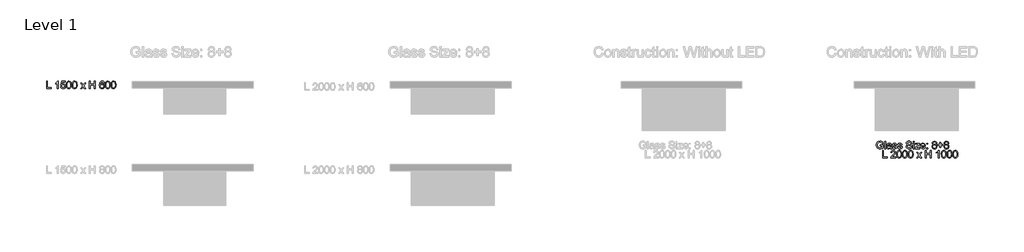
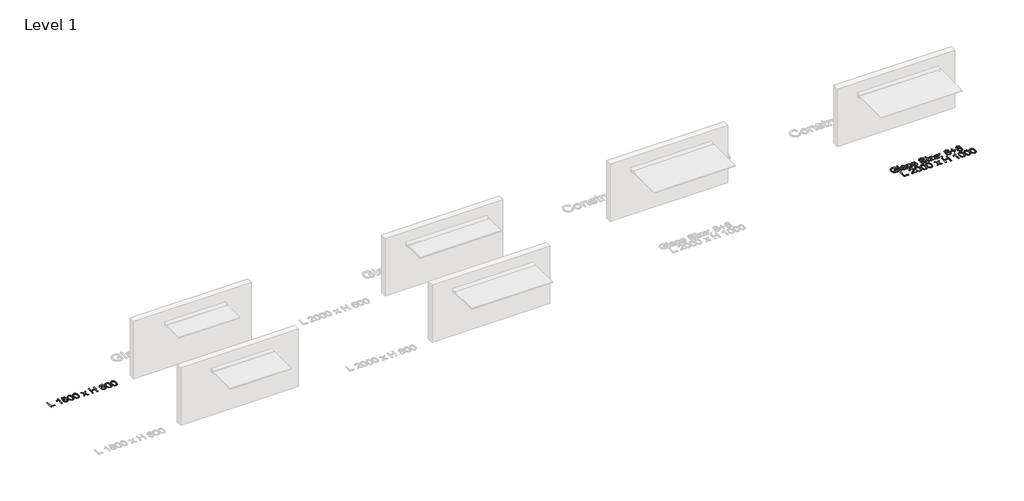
# One storey, part 3 of 6: 2 proxies.
"""IFC4 building model written with IfcOpenShell, lengths in millimetres."""

from ifc_helpers import new_model, si_unit, origin, origin_with_axes, place, context, project, spatial, polyline, outline, extrude, element, save

model = new_model("IFC4")

# Units and contexts
model_context = context("Model", 3, world=origin())
ifc_project = project(units=[si_unit("LENGTHUNIT", "METRE", prefix="MILLI")], contexts=[model_context])

# Site, building, storey
site = spatial("IfcSite", under=ifc_project)
building = spatial("IfcBuilding", under=site)
storey = spatial("IfcBuildingStorey", under=building, Name="Level 1", Elevation=0.0)

# Proxies
placement = place(None, origin())
element("IfcBuildingElementProxy", 1, Name="600mm Arial 3", ObjectType="600mm Arial 3", at=placement, inside=storey, context=model_context, shape_type="SweptSolid", body=[
    extrude(outline(polyline([(2272.1620309, 540.7311212), (2272.1620309, 721.5524795), (2294.7647007, 721.5524795), (2294.7647007, 563.333791), (2385.1753798, 563.333791), (2385.1753798, 540.7311212), (2272.1620309, 540.7311212)])), origin_with_axes(), (0.0, 0.0, 1.0), 5.0),
    extrude(outline(polyline([(2557.5207369, 540.7311212), (2534.9180672, 540.7311212), (2534.9180672, 681.6446406), (2513.507335, 666.3922531), (2489.7127276, 654.9805536), (2489.7127276, 676.3471399), (2522.8441801, 697.492997), (2542.9526099, 721.5524795), (2557.5207369, 721.5524795), (2557.5207369, 540.7311212)])), origin_with_axes(), (0.0, 0.0, 1.0), 5.0),
    extrude(outline(polyline([(2611.2020777, 588.7617945), (2633.8047475, 591.5871282), (2637.9544564, 578.0178008), (2645.194374, 568.3001979), (2655.4913911, 562.4563924), (2668.8123981, 560.5084573), (2685.0139212, 563.2179082), (2697.154027, 571.3462608), (2704.7360749, 583.9554162), (2707.2634243, 600.1072752), (2704.8961036, 615.3155169), (2697.7941417, 626.9479456), (2685.9023562, 634.3313372), (2669.1655648, 636.7924678), (2649.32201, 632.8634881), (2636.6300812, 622.6657992), (2614.0274114, 625.4911329), (2633.8047475, 718.7271457), (2721.3900929, 718.7271457), (2721.3900929, 696.124476), (2652.081125, 696.124476), (2642.3690403, 646.3279691), (2658.5153811, 656.1283454), (2675.434274, 659.3951376), (2696.5580582, 655.3447568), (2714.1060294, 643.1936145), (2725.9260779, 624.6744349), (2729.866094, 601.5199421), (2726.3233904, 578.9172723), (2715.6952796, 559.5813946), (2695.3440476, 543.3246893), (2668.7241064, 537.9057875), (2646.5242674, 541.3877906), (2628.8383405, 551.8337998), (2616.7147894, 568.0298047), (2611.2020777, 588.7617945)])), origin_with_axes(), (0.0, 0.0, 1.0), 5.0),
    extrude(outline(polyline([(2749.6434301, 629.6849876), (2751.3044173, 658.6281036), (2756.2873789, 681.7108594), (2764.5426509, 699.2864217), (2776.0205692, 711.7079573), (2790.8039071, 719.0913489), (2808.9754383, 721.5524795), (2835.3746503, 715.7252287), (2845.8041048, 708.6122303), (2853.6068819, 698.9277368), (2864.2018834, 672.1753581), (2868.3074465, 629.6849876), (2866.6630139, 600.9074186), (2861.7297164, 577.8798451), (2853.5241085, 560.2877281), (2842.0627449, 547.8165284), (2827.2462976, 540.3834727), (2808.9754383, 537.9057875), (2785.4898517, 542.2100068), (2767.6549326, 555.1226649), (2759.7749002, 568.7388972), (2754.1463057, 585.7046951), (2749.6434301, 629.6849876)]), holes=[polyline([(2772.2460999, 629.7291335), (2774.8948502, 594.175178), (2782.8411013, 573.5976986), (2794.6721863, 563.7807676), (2808.9754383, 560.5084573), (2823.2786903, 563.7918041), (2835.1097752, 573.6418445), (2843.0560263, 594.2303603), (2845.7047767, 629.7291335), (2843.144318, 664.4829456), (2835.4629419, 685.2204536), (2823.6539299, 695.5174707), (2808.7105632, 698.9498097), (2794.5618217, 695.9258197), (2783.1942681, 686.8538497), (2774.9831419, 664.8250758), (2772.2460999, 629.7291335)])]), origin_with_axes(), (0.0, 0.0, 1.0), 5.0),
    extrude(outline(polyline([(2888.0847825, 629.6849876), (2889.7457697, 658.6281036), (2894.7287314, 681.7108594), (2902.9840033, 699.2864217), (2914.4619216, 711.7079573), (2929.2452596, 719.0913489), (2947.4167907, 721.5524795), (2973.8160027, 715.7252287), (2984.2454572, 708.6122303), (2992.0482344, 698.9277368), (3002.6432358, 672.1753581), (3006.7487989, 629.6849876), (3005.1043664, 600.9074186), (3000.1710688, 577.8798451), (2991.9654609, 560.2877281), (2980.5040974, 547.8165284), (2965.68765, 540.3834727), (2947.4167907, 537.9057875), (2923.9312041, 542.2100068), (2906.096285, 555.1226649), (2898.2162527, 568.7388972), (2892.5876581, 585.7046951), (2888.0847825, 629.6849876)]), holes=[polyline([(2910.6874523, 629.7291335), (2913.3362027, 594.175178), (2921.2824538, 573.5976986), (2933.1135387, 563.7807676), (2947.4167907, 560.5084573), (2961.7200427, 563.7918041), (2973.5511276, 573.6418445), (2981.4973787, 594.2303603), (2984.1461291, 629.7291335), (2981.5856704, 664.4829456), (2973.9042944, 685.2204536), (2962.0952823, 695.5174707), (2947.1519157, 698.9498097), (2933.0031741, 695.9258197), (2921.6356205, 686.8538497), (2913.4244944, 664.8250758), (2910.6874523, 629.7291335)])]), origin_with_axes(), (0.0, 0.0, 1.0), 5.0),
    extrude(outline(polyline([(3088.6834769, 540.7311212), (3136.9790252, 607.5237762), (3091.5088106, 673.5218062), (3118.614356, 673.5218062), (3140.5548382, 641.692656), (3150.8408188, 626.7272164), (3159.7582783, 638.9997598), (3184.7448234, 673.5218062), (3211.9386605, 673.5218062), (3164.1728623, 607.4796304), (3210.1728269, 540.7311212), (3183.0231357, 540.7311212), (3155.2995485, 580.9038351), (3150.2669228, 588.2761903), (3115.8773139, 540.7311212), (3088.6834769, 540.7311212)])), origin_with_axes(), (0.0, 0.0, 1.0), 5.0),
    extrude(outline(polyline([(3303.4088398, 540.7311212), (3303.4088398, 721.5524795), (3326.0115096, 721.5524795), (3326.0115096, 648.0938027), (3422.0728562, 648.0938027), (3422.0728562, 721.5524795), (3444.6755259, 721.5524795), (3444.6755259, 540.7311212), (3422.0728562, 540.7311212), (3422.0728562, 625.4911329), (3326.0115096, 625.4911329), (3326.0115096, 540.7311212), (3303.4088398, 540.7311212)])), origin_with_axes(), (0.0, 0.0, 1.0), 5.0),
    extrude(outline(polyline([(3662.2262226, 673.5218062), (3639.6235528, 670.6964725), (3631.05926, 689.5467459), (3620.8063888, 696.5990437), (3608.4124444, 698.9498097), (3588.0170665, 693.4757256), (3579.5245107, 684.8286593), (3572.5880957, 672.9258373), (3567.9031185, 656.0897178), (3566.164876, 632.6427589), (3575.2313278, 643.2212056), (3586.0967225, 650.6763343), (3610.7963197, 656.5698038), (3631.6773017, 652.541496), (3649.2032, 640.4565725), (3661.0894672, 621.9925751), (3665.0515563, 598.8270459), (3663.1863946, 582.6420775), (3657.5909095, 567.6380103), (3648.7286322, 554.9129721), (3637.0630941, 545.5650906), (3623.1240453, 539.8206133), (3607.4412359, 537.9057875), (3581.7980214, 542.982559), (3561.3750525, 558.2128736), (3553.5819322, 570.0108492), (3548.0154178, 585.0976898), (3543.5622063, 625.1379662), (3548.5065403, 670.1556859), (3554.6869578, 687.3256583), (3563.3395423, 700.9363725), (3583.5914461, 716.3984527), (3609.8251112, 721.5524795), (3629.6576296, 718.3629426), (3645.5390953, 708.7943319), (3656.6638468, 693.5971267), (3662.2262226, 673.5218062)]), holes=[polyline([(3566.164876, 599.1802126), (3571.396158, 579.6015328), (3585.3020974, 565.3865725), (3605.6754023, 560.5084573), (3620.5911778, 563.0358066), (3632.3174164, 570.6178545), (3639.916019, 582.5372311), (3642.4488866, 598.0765666), (3639.9491284, 612.9923421), (3632.4498539, 624.365414), (3620.5249591, 631.566704), (3604.7483397, 633.9671341), (3589.8546371, 631.566704), (3577.3999922, 624.365414), (3568.9736551, 613.2682536), (3566.164876, 599.1802126)])]), origin_with_axes(), (0.0, 0.0, 1.0), 5.0),
    extrude(outline(polyline([(3684.8288924, 629.6849876), (3686.4898796, 658.6281036), (3691.4728412, 681.7108594), (3699.7281132, 699.2864217), (3711.2060315, 711.7079573), (3725.9893694, 719.0913489), (3744.1609006, 721.5524795), (3770.5601126, 715.7252287), (3780.9895671, 708.6122303), (3788.7923442, 698.9277368), (3799.3873457, 672.1753581), (3803.4929088, 629.6849876), (3801.8484762, 600.9074186), (3796.9151787, 577.8798451), (3788.7095708, 560.2877281), (3777.2482072, 547.8165284), (3762.4317599, 540.3834727), (3744.1609006, 537.9057875), (3720.675314, 542.2100068), (3702.8403949, 555.1226649), (3694.9603625, 568.7388972), (3689.331768, 585.7046951), (3684.8288924, 629.6849876)]), holes=[polyline([(3707.4315622, 629.7291335), (3710.0803125, 594.175178), (3718.0265636, 573.5976986), (3729.8576486, 563.7807676), (3744.1609006, 560.5084573), (3758.4641526, 563.7918041), (3770.2952375, 573.6418445), (3778.2414886, 594.2303603), (3780.890239, 629.7291335), (3778.3297803, 664.4829456), (3770.6484042, 685.2204536), (3758.8393922, 695.5174707), (3743.8960255, 698.9498097), (3729.747284, 695.9258197), (3718.3797304, 686.8538497), (3710.1686042, 664.8250758), (3707.4315622, 629.7291335)])]), origin_with_axes(), (0.0, 0.0, 1.0), 5.0),
    extrude(outline(polyline([(3823.2702448, 629.6849876), (3824.931232, 658.6281036), (3829.9141937, 681.7108594), (3838.1694656, 699.2864217), (3849.6473839, 711.7079573), (3864.4307219, 719.0913489), (3882.602253, 721.5524795), (3909.001465, 715.7252287), (3919.4309195, 708.6122303), (3927.2336967, 698.9277368), (3937.8286981, 672.1753581), (3941.9342612, 629.6849876), (3940.2898287, 600.9074186), (3935.3565311, 577.8798451), (3927.1509232, 560.2877281), (3915.6895597, 547.8165284), (3900.8731123, 540.3834727), (3882.602253, 537.9057875), (3859.1166664, 542.2100068), (3841.2817473, 555.1226649), (3833.401715, 568.7388972), (3827.7731204, 585.7046951), (3823.2702448, 629.6849876)]), holes=[polyline([(3845.8729146, 629.7291335), (3848.521665, 594.175178), (3856.4679161, 573.5976986), (3868.299001, 563.7807676), (3882.602253, 560.5084573), (3896.905505, 563.7918041), (3908.7365899, 573.6418445), (3916.682841, 594.2303603), (3919.3315914, 629.7291335), (3916.7711327, 664.4829456), (3909.0897567, 685.2204536), (3897.2807446, 695.5174707), (3882.337378, 698.9498097), (3868.1886364, 695.9258197), (3856.8210828, 686.8538497), (3848.6099567, 664.8250758), (3845.8729146, 629.7291335)])]), origin_with_axes(), (0.0, 0.0, 1.0), 5.0),
])
element("IfcBuildingElementProxy", 2, Name="600mm Arial 3", ObjectType="600mm Arial 3", at=placement, inside=storey, context=model_context, shape_type="SweptSolid", body=[
    extrude(outline(polyline([(22306.0715057, -837.1901227), (22306.0715057, -814.5874529), (22379.5301825, -814.5874529), (22379.5301825, -882.174733), (22361.6787087, -894.5907504), (22343.2643754, -903.4971735), (22324.3313285, -908.860893), (22304.9237139, -910.6487995), (22279.5674473, -907.8069111), (22256.6502384, -899.2812458), (22237.6123452, -885.3697882), (22223.8940256, -866.3705225), (22215.600126, -843.5802329), (22212.8354928, -818.2957034), (22215.5890896, -792.8290723), (22223.8498798, -769.1393112), (22237.2757332, -749.2681652), (22255.5245195, -735.2573794), (22277.7519497, -726.9469252), (22303.1137344, -724.1767737), (22321.7322422, -725.7825787), (22338.4745518, -730.5999934), (22352.5736293, -738.2813694), (22363.2624406, -748.4790584), (22371.1700641, -761.6841826), (22376.9255779, -778.3878646), (22356.0887417, -784.2592612), (22345.7806882, -763.3562062), (22328.1664983, -751.3043921), (22302.7605677, -746.7794435), (22273.82297, -751.6575588), (22254.1339256, -764.4598522), (22242.5014969, -781.8753859), (22237.2039962, -798.9377528), (22235.4381626, -817.3686408), (22237.5626811, -838.9835474), (22243.9362367, -856.7688025), (22254.3656913, -870.5974866), (22268.6579068, -880.3426807), (22285.3836617, -886.1202674), (22303.1137344, -888.0461297), (22334.037895, -882.2409518), (22356.9275127, -869.8580438), (22356.9275127, -837.1901227), (22306.0715057, -837.1901227)])), origin_with_axes(), (0.0, 0.0, 1.0), 5.0),
    extrude(outline(polyline([(22413.4341871, -907.8234657), (22413.4341871, -727.0021075), (22436.0368569, -727.0021075), (22436.0368569, -907.8234657), (22413.4341871, -907.8234657)])), origin_with_axes(), (0.0, 0.0, 1.0), 5.0),
    extrude(outline(polyline([(22554.7008733, -890.8714634), (22532.782464, -906.1900697), (22508.5684711, -910.6487995), (22489.6795701, -907.9669397), (22475.7460395, -899.9213605), (22467.1541555, -887.7039994), (22464.2901942, -872.5067942), (22468.6164864, -854.6277292), (22479.9840401, -841.6488524), (22495.8103235, -834.2323514), (22515.3669304, -830.8331218), (22554.5684358, -823.0634541), (22554.7008733, -818.0308284), (22553.1447325, -807.9435041), (22548.4763099, -801.3437011), (22538.0358189, -796.4435129), (22523.4897648, -794.8101168), (22500.62222, -799.158482), (22494.2100368, -805.1899073), (22489.7181977, -814.5874529), (22467.1155279, -811.7621192), (22476.8938313, -789.6891995), (22485.2263585, -782.261662), (22496.5828757, -776.7544685), (22526.4033902, -772.207447), (22553.7958836, -776.2247184), (22569.2690003, -786.3120427), (22576.1998971, -801.6527219), (22577.3035431, -821.430058), (22577.3035431, -849.5509577), (22578.4513349, -888.8186819), (22582.9542105, -907.8234657), (22560.3515407, -907.8234657), (22554.7008733, -890.8714634)]), holes=[polyline([(22554.7008733, -845.6661238), (22518.2364099, -852.5970206), (22498.7901677, -856.2611253), (22489.9830727, -862.2208136), (22486.8928639, -870.917544), (22488.5759241, -877.638748), (22493.6251045, -883.1459415), (22513.3803676, -888.0461297), (22536.2479124, -882.6382644), (22550.9926228, -869.549023), (22554.5684358, -852.0672706), (22554.7008733, -845.6661238)])]), origin_with_axes(), (0.0, 0.0, 1.0), 5.0),
    extrude(outline(polyline([(22599.9062129, -868.2687936), (22622.5088826, -865.4434599), (22626.0736592, -875.1113987), (22632.9714466, -882.2188789), (22643.2463907, -886.589317), (22656.9426374, -888.0461297), (22670.4733372, -886.710718), (22679.9867656, -882.7044831), (22685.6153601, -876.8993052), (22687.4915583, -870.1670647), (22685.6043236, -864.4060327), (22679.9426197, -860.0135216), (22656.6777624, -853.5682291), (22622.6413202, -842.5096963), (22607.7862452, -829.5970383), (22602.7315466, -811.3648066), (22606.7929638, -794.5231689), (22617.8735695, -781.6546567), (22632.2430402, -774.966562), (22651.6892825, -772.207447), (22679.1921405, -776.6441039), (22696.6738929, -788.6517722), (22704.4435606, -808.9367854), (22681.8408908, -811.7621192), (22678.987966, -804.6491208), (22673.3428167, -799.2909195), (22653.4551161, -794.8101168), (22631.8236548, -799.0922632), (22625.3342164, -809.069223), (22628.0271126, -815.646953), (22636.4589679, -820.6354329), (22655.9272831, -825.4473294), (22689.1028814, -836.0864767), (22704.5097794, -848.1382908), (22708.6981159, -857.0005681), (22710.0942281, -867.7831894), (22708.4553138, -878.9300138), (22703.5385709, -889.4146507), (22695.5316193, -898.4148837), (22684.6220787, -905.1084966), (22656.6336165, -910.6487995), (22633.8433269, -907.9779762), (22617.2113819, -899.9655063), (22606.1087033, -886.6996816), (22599.9062129, -868.2687936)])), origin_with_axes(), (0.0, 0.0, 1.0), 5.0),
    extrude(outline(polyline([(22727.0462304, -868.2687936), (22749.6489002, -865.4434599), (22753.2136767, -875.1113987), (22760.1114641, -882.2188789), (22770.3864082, -886.589317), (22784.0826549, -888.0461297), (22797.6133547, -886.710718), (22807.1267831, -882.7044831), (22812.7553776, -876.8993052), (22814.6315758, -870.1670647), (22812.7443412, -864.4060327), (22807.0826373, -860.0135216), (22783.8177799, -853.5682291), (22749.7813377, -842.5096963), (22734.9262627, -829.5970383), (22729.8715641, -811.3648066), (22733.9329813, -794.5231689), (22745.013587, -781.6546567), (22759.3830578, -774.966562), (22778.8293, -772.207447), (22806.332158, -776.6441039), (22823.8139104, -788.6517722), (22831.5835781, -808.9367854), (22808.9809084, -811.7621192), (22806.1279835, -804.6491208), (22800.4828343, -799.2909195), (22780.5951336, -794.8101168), (22758.9636723, -799.0922632), (22752.4742339, -809.069223), (22755.1671301, -815.646953), (22763.5989854, -820.6354329), (22783.0673006, -825.4473294), (22816.2428989, -836.0864767), (22831.6497969, -848.1382908), (22835.8381334, -857.0005681), (22837.2342456, -867.7831894), (22835.5953313, -878.9300138), (22830.6785884, -889.4146507), (22822.6716368, -898.4148837), (22811.7620962, -905.1084966), (22783.7736341, -910.6487995), (22760.9833445, -907.9779762), (22744.3513995, -899.9655063), (22733.2487208, -886.6996816), (22727.0462304, -868.2687936)])), origin_with_axes(), (0.0, 0.0, 1.0), 5.0),
    extrude(outline(polyline([(22927.6449247, -845.6661238), (22950.2475945, -845.6661238), (22957.531658, -868.2908665), (22964.8488309, -876.2922999), (22975.3224313, -882.5941185), (23002.4279767, -888.0461297), (23026.0460008, -883.9184937), (23041.2983883, -872.573013), (23046.3089411, -857.4089171), (23042.5565447, -843.3043214), (23027.1937926, -833.0404138), (22994.2830693, -824.4099022), (22958.8560332, -813.2630777), (22947.6043624, -805.6589569), (22939.6305201, -796.4435129), (22934.8793242, -785.815402), (22933.2955922, -773.9732806), (22935.2545638, -760.735047), (22941.1314787, -748.3907667), (22950.7718264, -737.9282027), (22964.0210964, -730.3351183), (22979.9246351, -725.7163599), (22997.5277885, -724.1767737), (23016.5987912, -725.7880969), (23033.2859185, -730.6220663), (23046.9932016, -738.5793539), (23057.1246717, -749.5606314), (23063.5368549, -762.8816385), (23066.0862772, -777.8581145), (23043.4836074, -777.8581145), (23039.3338985, -764.3715605), (23030.6813139, -754.6374029), (23017.1616506, -748.7439334), (22998.4107053, -746.7794435), (22979.2183016, -748.7218605), (22966.051805, -754.5491113), (22958.4366477, -763.1244406), (22955.898262, -773.311093), (22957.6972049, -781.9967869), (22963.0940338, -788.982866), (22975.8521814, -795.2295023), (22999.9999555, -801.6085761), (23039.9960861, -812.9540568), (23052.8811529, -821.1541465), (23061.8703495, -831.2745802), (23067.1512955, -843.2049933), (23068.9116109, -856.8350212), (23066.8864205, -870.7685518), (23060.8108493, -883.8743479), (23050.9332178, -895.1536098), (23037.5018461, -903.6075381), (23021.3499871, -908.8884841), (23003.3108935, -910.6487995), (22981.1662368, -908.7505284), (22962.9395233, -903.0557151), (22948.4210604, -893.5422867), (22937.4011552, -880.1881703), (22930.3267845, -863.9204284), (22927.6449247, -845.6661238)])), origin_with_axes(), (0.0, 0.0, 1.0), 5.0),
    extrude(outline(polyline([(23099.9902818, -749.6047773), (23099.9902818, -727.0021075), (23122.5929516, -727.0021075), (23122.5929516, -749.6047773), (23099.9902818, -749.6047773)])), origin_with_axes(), (0.0, 0.0, 1.0), 5.0),
    extrude(outline(polyline([(23099.9902818, -907.8234657), (23099.9902818, -775.0327808), (23122.5929516, -775.0327808), (23122.5929516, -907.8234657), (23099.9902818, -907.8234657)])), origin_with_axes(), (0.0, 0.0, 1.0), 5.0),
    extrude(outline(polyline([(23142.3702877, -907.8234657), (23142.3702877, -886.5451711), (23220.3759859, -797.6354505), (23197.2877119, -797.6354505), (23148.0209551, -797.6354505), (23148.0209551, -775.0327808), (23252.5583029, -775.0327808), (23252.5583029, -794.2362209), (23183.3817725, -873.124836), (23172.786771, -885.220796), (23198.921108, -885.220796), (23255.3836366, -885.220796), (23255.3836366, -907.8234657), (23142.3702877, -907.8234657)])), origin_with_axes(), (0.0, 0.0, 1.0), 5.0),
    extrude(outline(polyline([(23370.9574442, -868.2687936), (23393.1186556, -871.0941273), (23385.1337769, -887.7922911), (23372.392184, -900.2745272), (23355.1808248, -908.0552314), (23333.7866474, -910.6487995), (23307.2660344, -906.173515), (23286.8596201, -892.7476616), (23273.8476339, -871.2431196), (23269.5103052, -842.5317692), (23273.8917798, -812.8547287), (23287.0362035, -790.6604079), (23307.1667062, -776.8206873), (23332.5064181, -772.207447), (23357.057023, -776.8096508), (23376.6743304, -790.6162621), (23389.5373244, -812.766437), (23393.824989, -842.3993317), (23393.6925515, -848.4914576), (23292.112975, -848.4914576), (23296.0254, -865.4103505), (23305.1139247, -877.8484408), (23318.2307572, -885.4967075), (23334.2281058, -888.0461297), (23356.3893172, -883.3225249), (23364.6225162, -877.1972896), (23370.9574442, -868.2687936)]), holes=[polyline([(23292.112975, -825.8887878), (23371.2223192, -825.8887878), (23368.1652199, -813.9473382), (23362.1724222, -805.4051183), (23348.9948891, -797.4588672), (23332.4181264, -794.8101168), (23317.1822936, -796.9235989), (23304.5841746, -803.2640451), (23295.8267437, -813.1471949), (23292.112975, -825.8887878)])]), origin_with_axes(), (0.0, 0.0, 1.0), 5.0),
    extrude(outline(polyline([(23422.0783262, -797.6354505), (23422.0783262, -775.0327808), (23444.680996, -775.0327808), (23444.680996, -797.6354505), (23422.0783262, -797.6354505)])), origin_with_axes(), (0.0, 0.0, 1.0), 5.0),
    extrude(outline(polyline([(23422.0783262, -907.8234657), (23422.0783262, -885.220796), (23444.680996, -885.220796), (23444.680996, -907.8234657), (23422.0783262, -907.8234657)])), origin_with_axes(), (0.0, 0.0, 1.0), 5.0),
    extrude(outline(polyline([(23584.9764737, -808.230452), (23572.8749955, -802.2707637), (23564.3824396, -794.1920751), (23559.3663686, -784.1599331), (23557.6943449, -772.3398846), (23561.3363767, -754.6705123), (23572.262472, -740.0692759), (23589.2475837, -730.2688996), (23611.0666648, -727.0021075), (23633.0181835, -730.3461548), (23650.2240244, -740.3782968), (23661.3487759, -755.2112989), (23665.0570264, -772.9579263), (23663.4070757, -784.3972169), (23658.4572234, -794.2582938), (23650.1522874, -802.2873184), (23638.4370852, -808.230452), (23652.3485429, -815.3986327), (23662.4744948, -825.9550065), (23668.6493941, -839.3918964), (23670.7076939, -855.2016252), (23666.6242037, -876.8110135), (23654.3737333, -894.6680056), (23635.4572411, -906.653601), (23611.3756857, -910.6487995), (23587.2941303, -906.6370463), (23568.3776381, -894.6017868), (23556.1271676, -876.5737297), (23552.0436775, -854.5835834), (23554.1847507, -838.1613311), (23560.6079703, -824.6527043), (23570.9822426, -814.5212341), (23584.9764737, -808.230452)]), holes=[polyline([(23580.2970147, -773.0020721), (23582.3001322, -782.8686673), (23588.3094846, -790.7486996), (23598.1484885, -795.9137628), (23611.6405607, -797.6354505), (23624.8180938, -795.9247993), (23634.5081055, -790.7928454), (23640.4677939, -783.1776881), (23642.4543566, -774.0174265), (23640.4015751, -764.5095163), (23634.2432305, -756.6460386), (23624.4207812, -751.3650926), (23611.3756857, -749.6047773), (23598.2478167, -751.326465), (23588.4419221, -756.4915282), (23582.3332416, -764.0625397), (23580.2970147, -773.0020721)]), polyline([(23574.6463473, -853.7889583), (23578.4208166, -870.8071794), (23583.6465803, -878.1077976), (23591.774933, -883.5432541), (23611.552269, -888.0461297), (23626.9370941, -885.678809), (23638.4812311, -878.5768471), (23645.6990758, -867.821817), (23648.1050241, -854.4952917), (23645.6218206, -840.942519), (23638.1722102, -829.950205), (23626.3631982, -822.6661415), (23610.8017898, -820.2381203), (23595.6321757, -822.6330321), (23584.2039215, -829.8177675), (23577.0357408, -840.6003888), (23574.6463473, -853.7889583)])]), origin_with_axes(), (0.0, 0.0, 1.0), 5.0),
    extrude(outline(polyline([(23741.3410369, -879.5701285), (23741.3410369, -831.5394552), (23693.3103636, -831.5394552), (23693.3103636, -808.9367854), (23741.3410369, -808.9367854), (23741.3410369, -760.9061121), (23763.9437067, -760.9061121), (23763.9437067, -808.9367854), (23811.97438, -808.9367854), (23811.97438, -831.5394552), (23763.9437067, -831.5394552), (23763.9437067, -879.5701285), (23741.3410369, -879.5701285)])), origin_with_axes(), (0.0, 0.0, 1.0), 5.0),
    extrude(outline(polyline([(23870.3351797, -808.230452), (23858.2337015, -802.2707637), (23849.7411456, -794.1920751), (23844.7250746, -784.1599331), (23843.053051, -772.3398846), (23846.6950827, -754.6705123), (23857.621178, -740.0692759), (23874.6062897, -730.2688996), (23896.4253708, -727.0021075), (23918.3768895, -730.3461548), (23935.5827304, -740.3782968), (23946.7074819, -755.2112989), (23950.4157324, -772.9579263), (23948.7657817, -784.3972169), (23943.8159294, -794.2582938), (23935.5109934, -802.2873184), (23923.7957913, -808.230452), (23937.7072489, -815.3986327), (23947.8332008, -825.9550065), (23954.0081001, -839.3918964), (23956.0663999, -855.2016252), (23951.9829097, -876.8110135), (23939.7324393, -894.6680056), (23920.8159471, -906.653601), (23896.7343917, -910.6487995), (23872.6528363, -906.6370463), (23853.7363441, -894.6017868), (23841.4858737, -876.5737297), (23837.4023835, -854.5835834), (23839.5434567, -838.1613311), (23845.9666764, -824.6527043), (23856.3409486, -814.5212341), (23870.3351797, -808.230452)]), holes=[polyline([(23865.6557207, -773.0020721), (23867.6588382, -782.8686673), (23873.6681906, -790.7486996), (23883.5071946, -795.9137628), (23896.9992667, -797.6354505), (23910.1767998, -795.9247993), (23919.8668116, -790.7928454), (23925.8264999, -783.1776881), (23927.8130627, -774.0174265), (23925.7602811, -764.5095163), (23919.6019365, -756.6460386), (23909.7794873, -751.3650926), (23896.7343917, -749.6047773), (23883.6065227, -751.326465), (23873.8006281, -756.4915282), (23867.6919476, -764.0625397), (23865.6557207, -773.0020721)]), polyline([(23860.0050533, -853.7889583), (23863.7795226, -870.8071794), (23869.0052863, -878.1077976), (23877.133639, -883.5432541), (23896.9109751, -888.0461297), (23912.2958001, -885.678809), (23923.8399371, -878.5768471), (23931.0577819, -867.821817), (23933.4637301, -854.4952917), (23930.9805266, -840.942519), (23923.5309162, -829.950205), (23911.7219042, -822.6661415), (23896.1604958, -820.2381203), (23880.9908817, -822.6330321), (23869.5626275, -829.8177675), (23862.3944469, -840.6003888), (23860.0050533, -853.7889583)])]), origin_with_axes(), (0.0, 0.0, 1.0), 5.0),
    extrude(outline(polyline([(22362.5781801, -1127.3781379), (22362.5781801, -946.5567796), (22385.1808499, -946.5567796), (22385.1808499, -1104.7754681), (22475.5915291, -1104.7754681), (22475.5915291, -1127.3781379), (22362.5781801, -1127.3781379)])), origin_with_axes(), (0.0, 0.0, 1.0), 5.0),
    extrude(outline(polyline([(22679.0155571, -1104.7754681), (22679.0155571, -1127.3781379), (22560.3515407, -1127.3781379), (22562.7795619, -1111.7946565), (22576.5309909, -1087.8013928), (22604.8505469, -1061.6008371), (22643.853396, -1023.9444361), (22651.1540142, -1010.9655593), (22653.5875536, -998.3398492), (22651.2864517, -987.0219597), (22644.3831461, -977.6133776), (22633.7715899, -971.2729314), (22620.3457365, -969.1594494), (22606.2466591, -971.2232674), (22595.2929726, -977.4147213), (22588.2241201, -987.2482071), (22585.7795442, -1000.2381203), (22563.1768745, -997.4127866), (22568.6564768, -975.5495596), (22580.5041164, -959.5798022), (22598.1017517, -949.8125353), (22620.8313407, -946.5567796), (22643.7264767, -950.1767384), (22661.2910026, -961.0366149), (22672.4654182, -977.2602109), (22676.1902234, -996.9713282), (22672.172952, -1018.4041333), (22658.8188356, -1040.5653446), (22626.4378624, -1071.533651), (22600.4359629, -1093.2754769), (22590.238274, -1104.7754681), (22679.0155571, -1104.7754681)])), origin_with_axes(), (0.0, 0.0, 1.0), 5.0),
    extrude(outline(polyline([(22701.6182269, -1038.4242714), (22703.2792141, -1009.4811555), (22708.2621757, -986.3983997), (22716.5174477, -968.8228374), (22727.9953659, -956.4013018), (22742.7787039, -949.0179101), (22760.9502351, -946.5567796), (22787.349447, -952.3840304), (22797.7789016, -959.4970288), (22805.5816787, -969.1815223), (22816.1766802, -995.933901), (22820.2822433, -1038.4242714), (22818.6378107, -1067.2018405), (22813.7045132, -1090.229414), (22805.4989053, -1107.821531), (22794.0375417, -1120.2927306), (22779.2210944, -1127.7257863), (22760.9502351, -1130.2034716), (22737.4646485, -1125.8992522), (22719.6297294, -1112.9865942), (22711.749697, -1099.3703619), (22706.1211025, -1082.404564), (22701.6182269, -1038.4242714)]), holes=[polyline([(22724.2208967, -1038.3801256), (22726.869647, -1073.934081), (22734.8158981, -1094.5115604), (22746.6469831, -1104.3284915), (22760.9502351, -1107.6008018), (22775.253487, -1104.317455), (22787.084572, -1094.4674146), (22795.0308231, -1073.8788987), (22797.6795735, -1038.3801256), (22795.1191148, -1003.6263135), (22787.4377387, -982.8888054), (22775.6287267, -972.5917884), (22760.68536, -969.1594494), (22746.5366185, -972.1834394), (22735.1690649, -981.2554094), (22726.9579387, -1003.2841832), (22724.2208967, -1038.3801256)])]), origin_with_axes(), (0.0, 0.0, 1.0), 5.0),
    extrude(outline(polyline([(22840.0595793, -1038.4242714), (22841.7205665, -1009.4811555), (22846.7035281, -986.3983997), (22854.9588001, -968.8228374), (22866.4367184, -956.4013018), (22881.2200563, -949.0179101), (22899.3915875, -946.5567796), (22925.7907995, -952.3840304), (22936.220254, -959.4970288), (22944.0230312, -969.1815223), (22954.6180326, -995.933901), (22958.7235957, -1038.4242714), (22957.0791632, -1067.2018405), (22952.1458656, -1090.229414), (22943.9402577, -1107.821531), (22932.4788941, -1120.2927306), (22917.6624468, -1127.7257863), (22899.3915875, -1130.2034716), (22875.9060009, -1125.8992522), (22858.0710818, -1112.9865942), (22850.1910495, -1099.3703619), (22844.5624549, -1082.404564), (22840.0595793, -1038.4242714)]), holes=[polyline([(22862.6622491, -1038.3801256), (22865.3109995, -1073.934081), (22873.2572506, -1094.5115604), (22885.0883355, -1104.3284915), (22899.3915875, -1107.6008018), (22913.6948395, -1104.317455), (22925.5259244, -1094.4674146), (22933.4721755, -1073.8788987), (22936.1209259, -1038.3801256), (22933.5604672, -1003.6263135), (22925.8790912, -982.8888054), (22914.0700791, -972.5917884), (22899.1267125, -969.1594494), (22884.9779709, -972.1834394), (22873.6104173, -981.2554094), (22865.3992911, -1003.2841832), (22862.6622491, -1038.3801256)])]), origin_with_axes(), (0.0, 0.0, 1.0), 5.0),
    extrude(outline(polyline([(22978.5009317, -1038.4242714), (22980.1619189, -1009.4811555), (22985.1448806, -986.3983997), (22993.4001525, -968.8228374), (23004.8780708, -956.4013018), (23019.6614088, -949.0179101), (23037.8329399, -946.5567796), (23064.2321519, -952.3840304), (23074.6616065, -959.4970288), (23082.4643836, -969.1815223), (23093.059385, -995.933901), (23097.1649481, -1038.4242714), (23095.5205156, -1067.2018405), (23090.587218, -1090.229414), (23082.3816101, -1107.821531), (23070.9202466, -1120.2927306), (23056.1037992, -1127.7257863), (23037.8329399, -1130.2034716), (23014.3473534, -1125.8992522), (22996.5124342, -1112.9865942), (22988.6324019, -1099.3703619), (22983.0038074, -1082.404564), (22978.5009317, -1038.4242714)]), holes=[polyline([(23001.1036015, -1038.3801256), (23003.7523519, -1073.934081), (23011.698603, -1094.5115604), (23023.529688, -1104.3284915), (23037.8329399, -1107.6008018), (23052.1361919, -1104.317455), (23063.9672769, -1094.4674146), (23071.913528, -1073.8788987), (23074.5622783, -1038.3801256), (23072.0018196, -1003.6263135), (23064.3204436, -982.8888054), (23052.5114315, -972.5917884), (23037.5680649, -969.1594494), (23023.4193234, -972.1834394), (23012.0517697, -981.2554094), (23003.8406436, -1003.2841832), (23001.1036015, -1038.3801256)])]), origin_with_axes(), (0.0, 0.0, 1.0), 5.0),
    extrude(outline(polyline([(23179.0996261, -1127.3781379), (23227.3951744, -1060.5854828), (23181.9249598, -994.5874529), (23209.0305052, -994.5874529), (23230.9709874, -1026.4166031), (23241.256968, -1041.3820427), (23250.1744275, -1029.1094993), (23275.1609727, -994.5874529), (23302.3548097, -994.5874529), (23254.5890115, -1060.6296287), (23300.5889762, -1127.3781379), (23273.4392849, -1127.3781379), (23245.7156978, -1087.205424), (23240.6830721, -1079.8330688), (23206.2934632, -1127.3781379), (23179.0996261, -1127.3781379)])), origin_with_axes(), (0.0, 0.0, 1.0), 5.0),
    extrude(outline(polyline([(23393.824989, -1127.3781379), (23393.824989, -946.5567796), (23416.4276588, -946.5567796), (23416.4276588, -1020.0154564), (23512.4890054, -1020.0154564), (23512.4890054, -946.5567796), (23535.0916752, -946.5567796), (23535.0916752, -1127.3781379), (23512.4890054, -1127.3781379), (23512.4890054, -1042.6181262), (23416.4276588, -1042.6181262), (23416.4276588, -1127.3781379), (23393.824989, -1127.3781379)])), origin_with_axes(), (0.0, 0.0, 1.0), 5.0),
    extrude(outline(polyline([(23721.5637009, -1127.3781379), (23698.9610311, -1127.3781379), (23698.9610311, -986.4646184), (23677.550299, -1001.717006), (23653.7556915, -1013.1287054), (23653.7556915, -991.7621192), (23686.887144, -970.6162621), (23706.9955739, -946.5567796), (23721.5637009, -946.5567796), (23721.5637009, -1127.3781379)])), origin_with_axes(), (0.0, 0.0, 1.0), 5.0),
    extrude(outline(polyline([(23775.2450416, -1038.4242714), (23776.9060288, -1009.4811555), (23781.8889904, -986.3983997), (23790.1442624, -968.8228374), (23801.6221807, -956.4013018), (23816.4055186, -949.0179101), (23834.5770498, -946.5567796), (23860.9762618, -952.3840304), (23871.4057163, -959.4970288), (23879.2084935, -969.1815223), (23889.8034949, -995.933901), (23893.909058, -1038.4242714), (23892.2646255, -1067.2018405), (23887.3313279, -1090.229414), (23879.12572, -1107.821531), (23867.6643564, -1120.2927306), (23852.8479091, -1127.7257863), (23834.5770498, -1130.2034716), (23811.0914632, -1125.8992522), (23793.2565441, -1112.9865942), (23785.3765118, -1099.3703619), (23779.7479172, -1082.404564), (23775.2450416, -1038.4242714)]), holes=[polyline([(23797.8477114, -1038.3801256), (23800.4964618, -1073.934081), (23808.4427129, -1094.5115604), (23820.2737978, -1104.3284915), (23834.5770498, -1107.6008018), (23848.8803018, -1104.317455), (23860.7113867, -1094.4674146), (23868.6576378, -1073.8788987), (23871.3063882, -1038.3801256), (23868.7459295, -1003.6263135), (23861.0645534, -982.8888054), (23849.2555414, -972.5917884), (23834.3121748, -969.1594494), (23820.1634332, -972.1834394), (23808.7958796, -981.2554094), (23800.5847534, -1003.2841832), (23797.8477114, -1038.3801256)])]), origin_with_axes(), (0.0, 0.0, 1.0), 5.0),
    extrude(outline(polyline([(23913.686394, -1038.4242714), (23915.3473812, -1009.4811555), (23920.3303429, -986.3983997), (23928.5856148, -968.8228374), (23940.0635331, -956.4013018), (23954.8468711, -949.0179101), (23973.0184022, -946.5567796), (23999.4176142, -952.3840304), (24009.8470688, -959.4970288), (24017.6498459, -969.1815223), (24028.2448473, -995.933901), (24032.3504104, -1038.4242714), (24030.7059779, -1067.2018405), (24025.7726803, -1090.229414), (24017.5670724, -1107.821531), (24006.1057089, -1120.2927306), (23991.2892615, -1127.7257863), (23973.0184022, -1130.2034716), (23949.5328156, -1125.8992522), (23931.6978965, -1112.9865942), (23923.8178642, -1099.3703619), (23918.1892697, -1082.404564), (23913.686394, -1038.4242714)]), holes=[polyline([(23936.2890638, -1038.3801256), (23938.9378142, -1073.934081), (23946.8840653, -1094.5115604), (23958.7151502, -1104.3284915), (23973.0184022, -1107.6008018), (23987.3216542, -1104.317455), (23999.1527392, -1094.4674146), (24007.0989903, -1073.8788987), (24009.7477406, -1038.3801256), (24007.1872819, -1003.6263135), (23999.5059059, -982.8888054), (23987.6968938, -972.5917884), (23972.7535272, -969.1594494), (23958.6047857, -972.1834394), (23947.237232, -981.2554094), (23939.0261059, -1003.2841832), (23936.2890638, -1038.3801256)])]), origin_with_axes(), (0.0, 0.0, 1.0), 5.0),
    extrude(outline(polyline([(24052.1277465, -1038.4242714), (24053.7887337, -1009.4811555), (24058.7716953, -986.3983997), (24067.0269673, -968.8228374), (24078.5048855, -956.4013018), (24093.2882235, -949.0179101), (24111.4597546, -946.5567796), (24137.8589666, -952.3840304), (24148.2884212, -959.4970288), (24156.0911983, -969.1815223), (24166.6861998, -995.933901), (24170.7917628, -1038.4242714), (24169.1473303, -1067.2018405), (24164.2140328, -1090.229414), (24156.0084249, -1107.821531), (24144.5470613, -1120.2927306), (24129.7306139, -1127.7257863), (24111.4597546, -1130.2034716), (24087.9741681, -1125.8992522), (24070.1392489, -1112.9865942), (24062.2592166, -1099.3703619), (24056.6306221, -1082.404564), (24052.1277465, -1038.4242714)]), holes=[polyline([(24074.7304162, -1038.3801256), (24077.3791666, -1073.934081), (24085.3254177, -1094.5115604), (24097.1565027, -1104.3284915), (24111.4597546, -1107.6008018), (24125.7630066, -1104.317455), (24137.5940916, -1094.4674146), (24145.5403427, -1073.8788987), (24148.189093, -1038.3801256), (24145.6286344, -1003.6263135), (24137.9472583, -982.8888054), (24126.1382463, -972.5917884), (24111.1948796, -969.1594494), (24097.0461381, -972.1834394), (24085.6785844, -981.2554094), (24077.4674583, -1003.2841832), (24074.7304162, -1038.3801256)])]), origin_with_axes(), (0.0, 0.0, 1.0), 5.0),
])

save(model, "model.ifc")
